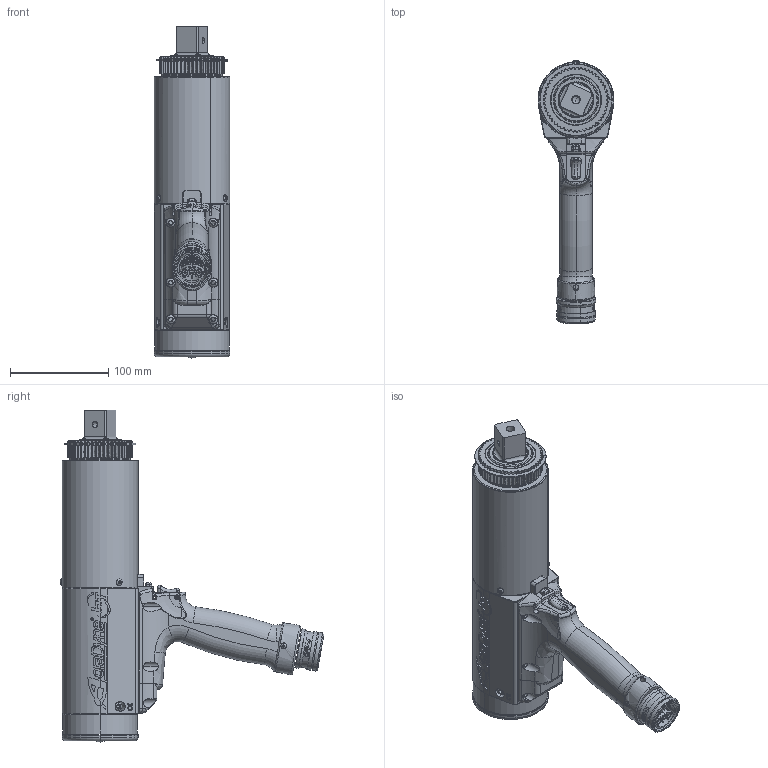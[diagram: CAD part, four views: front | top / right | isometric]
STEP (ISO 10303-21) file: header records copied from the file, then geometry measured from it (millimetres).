
FILE_DESCRIPTION (( 'STEP AP214' ), '1' );
FILE_NAME ('AEP4A773000B.STEP', '2016-04-05T17:32:16', ( 'AIMCO' ), ( '' ), 'SwSTEP 2.0', 'SolidWorks 2016', '' );
FILE_SCHEMA (( 'AUTOMOTIVE_DESIGN' ));
Length unit declared in the file: inch
Products named in the file (1): AEP4A773000B
Bounding box: 77.47 x 268.69 x 338.45 mm (x, y, z)
Surface area: 188744.3 mm2 (no closed solid volume)
Topology: 0 solids, 68 shells, 1273 faces, 5079 edges, 3680 vertices
Faces by surface type: cylinder 412, plane 342, bspline 248, torus 154, cone 103, sphere 14
Entity records: 134216 total; most frequent: CARTESIAN_POINT 80220, ORIENTED_EDGE 7782, DIRECTION 6623, EDGE_CURVE 5067, VERTEX_POINT 3678, AXIS2_PLACEMENT_3D 2442, LINE 1739, VECTOR 1739
